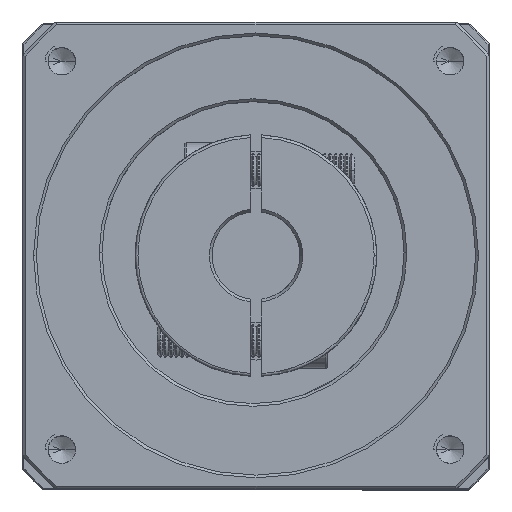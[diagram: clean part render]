
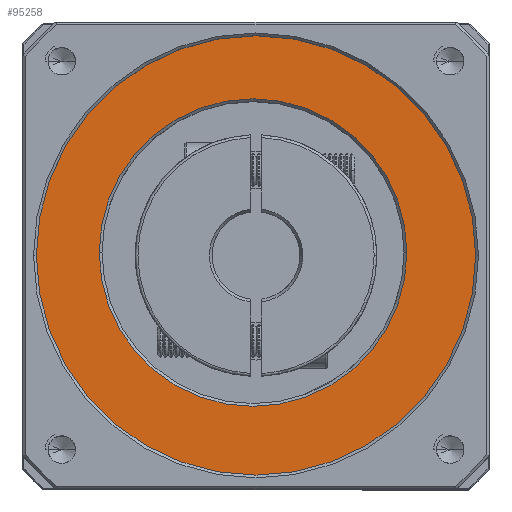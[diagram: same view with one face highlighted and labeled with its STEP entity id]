
A CAD part, top view. The second image highlights one B-rep face of the part: STEP entity #95258.
In plain terms, the highlighted planar face has unit normal (0, 0, 1).
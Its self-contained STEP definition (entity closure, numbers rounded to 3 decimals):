
#3041 = VERTEX_POINT ( 'NONE', #24264 ) ;
#3793 = VERTEX_POINT ( 'NONE', #57342 ) ;
#9474 = ORIENTED_EDGE ( 'NONE', *, *, #14335, .T. ) ;
#10320 = CIRCLE ( 'NONE', #106353, 40. ) ;
#12634 = FACE_OUTER_BOUND ( 'NONE', #103997, .T. ) ;
#14335 = EDGE_CURVE ( 'NONE', #3793, #3041, #91674, .T. ) ;
#15208 = FACE_BOUND ( 'NONE', #40495, .T. ) ;
#20258 = DIRECTION ( 'NONE',  ( 0., 0., -1. ) ) ;
#21338 = EDGE_CURVE ( 'NONE', #3041, #3793, #58758, .T. ) ;
#21378 = CIRCLE ( 'NONE', #29453, 40. ) ;
#21749 = EDGE_CURVE ( 'NONE', #49752, #71347, #21378, .T. ) ;
#24264 = CARTESIAN_POINT ( 'NONE',  ( -128.694, 29.168, 30.066 ) ) ;
#26258 = CARTESIAN_POINT ( 'NONE',  ( -100.153, 28.633, 30.066 ) ) ;
#29453 = AXIS2_PLACEMENT_3D ( 'NONE', #96754, #47449, #104969 ) ;
#31235 = DIRECTION ( 'NONE',  ( 0., 0., -1. ) ) ;
#34582 = DIRECTION ( 'NONE',  ( 1., 0., 0. ) ) ;
#34896 = DIRECTION ( 'NONE',  ( 0., 0., 1. ) ) ;
#36687 = ORIENTED_EDGE ( 'NONE', *, *, #21338, .T. ) ;
#38025 = AXIS2_PLACEMENT_3D ( 'NONE', #69623, #20258, #77893 ) ;
#40495 = EDGE_LOOP ( 'NONE', ( #9474, #36687 ) ) ;
#47449 = DIRECTION ( 'NONE',  ( 0., 0., 1. ) ) ;
#49359 = EDGE_CURVE ( 'NONE', #71347, #49752, #10320, .T. ) ;
#49752 = VERTEX_POINT ( 'NONE', #74095 ) ;
#51450 = ORIENTED_EDGE ( 'NONE', *, *, #21749, .T. ) ;
#57342 = CARTESIAN_POINT ( 'NONE',  ( -72.694, 29.168, 30.066 ) ) ;
#58758 = CIRCLE ( 'NONE', #85326, 28. ) ;
#69623 = CARTESIAN_POINT ( 'NONE',  ( -100.694, 29.168, 30.066 ) ) ;
#70697 = AXIS2_PLACEMENT_3D ( 'NONE', #26258, #83928, #34582 ) ;
#71347 = VERTEX_POINT ( 'NONE', #97823 ) ;
#74095 = CARTESIAN_POINT ( 'NONE',  ( -140.153, 28.633, 30.066 ) ) ;
#77893 = DIRECTION ( 'NONE',  ( 1., 0., 0. ) ) ;
#80552 = CARTESIAN_POINT ( 'NONE',  ( -100.694, 29.168, 30.066 ) ) ;
#83561 = PLANE ( 'NONE',  #70697 ) ;
#83928 = DIRECTION ( 'NONE',  ( 0., 0., 1. ) ) ;
#84255 = CARTESIAN_POINT ( 'NONE',  ( -100.153, 28.633, 30.066 ) ) ;
#85326 = AXIS2_PLACEMENT_3D ( 'NONE', #80552, #31235, #88832 ) ;
#88832 = DIRECTION ( 'NONE',  ( 1., 0., 0. ) ) ;
#91674 = CIRCLE ( 'NONE', #38025, 28. ) ;
#92481 = DIRECTION ( 'NONE',  ( 1., 0., 0. ) ) ;
#95258 = ADVANCED_FACE ( 'NONE', ( #12634, #15208 ), #83561, .T. ) ;
#96754 = CARTESIAN_POINT ( 'NONE',  ( -100.153, 28.633, 30.066 ) ) ;
#97823 = CARTESIAN_POINT ( 'NONE',  ( -60.153, 28.633, 30.066 ) ) ;
#103317 = ORIENTED_EDGE ( 'NONE', *, *, #49359, .T. ) ;
#103997 = EDGE_LOOP ( 'NONE', ( #103317, #51450 ) ) ;
#104969 = DIRECTION ( 'NONE',  ( 1., 0., 0. ) ) ;
#106353 = AXIS2_PLACEMENT_3D ( 'NONE', #84255, #34896, #92481 ) ;
